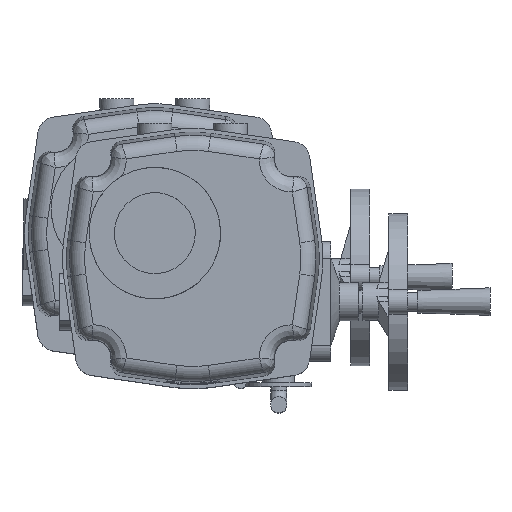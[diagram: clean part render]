
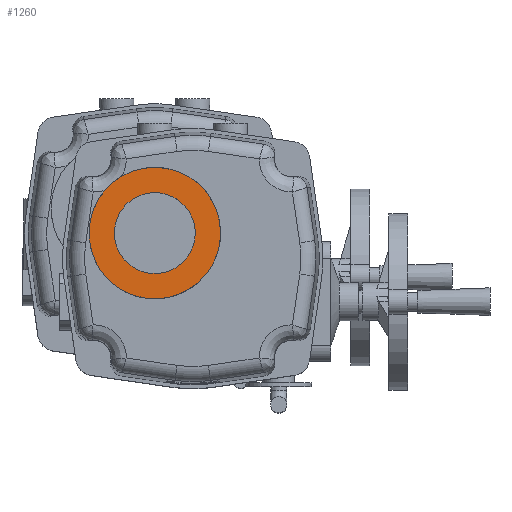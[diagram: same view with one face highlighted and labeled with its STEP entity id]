
A CAD part, top view. The second image highlights one B-rep face of the part: STEP entity #1260.
In plain terms, the highlighted planar face has unit normal (0, 0, 1).
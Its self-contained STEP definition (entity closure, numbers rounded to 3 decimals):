
#1260 = ADVANCED_FACE( '', ( #2765, #2766 ), #2767, .F. );
#2765 = FACE_BOUND( '', #7533, .T. );
#2766 = FACE_OUTER_BOUND( '', #7534, .T. );
#2767 = PLANE( '', #7535 );
#7533 = EDGE_LOOP( '', ( #12914 ) );
#7534 = EDGE_LOOP( '', ( #12915 ) );
#7535 = AXIS2_PLACEMENT_3D( '', #12916, #12917, #12918 );
#12914 = ORIENTED_EDGE( '', *, *, #15887, .T. );
#12915 = ORIENTED_EDGE( '', *, *, #15108, .F. );
#12916 = CARTESIAN_POINT( '', ( -30., 20., 132. ) );
#12917 = DIRECTION( '', ( 0., 0., -1. ) );
#12918 = DIRECTION( '', ( -1., 0., 0. ) );
#15108 = EDGE_CURVE( '', #17305, #17305, #17306, .T. );
#15887 = EDGE_CURVE( '', #18465, #18465, #18466, .T. );
#17305 = VERTEX_POINT( '', #22623 );
#17306 = CIRCLE( '', #22624, 52. );
#18465 = VERTEX_POINT( '', #28239 );
#18466 = CIRCLE( '', #28240, 32. );
#22623 = CARTESIAN_POINT( '', ( -37.499, -31.456, 132. ) );
#22624 = AXIS2_PLACEMENT_3D( '', #30965, #30966, #30967 );
#28239 = CARTESIAN_POINT( '', ( -34.615, -11.666, 132. ) );
#28240 = AXIS2_PLACEMENT_3D( '', #31538, #31539, #31540 );
#30965 = CARTESIAN_POINT( '', ( -30., 20., 132. ) );
#30966 = DIRECTION( '', ( 0., 0., -1. ) );
#30967 = DIRECTION( '', ( -0.144, -0.99, 0. ) );
#31538 = CARTESIAN_POINT( '', ( -30., 20., 132. ) );
#31539 = DIRECTION( '', ( 0., 0., -1. ) );
#31540 = DIRECTION( '', ( -0.144, -0.99, 0. ) );
